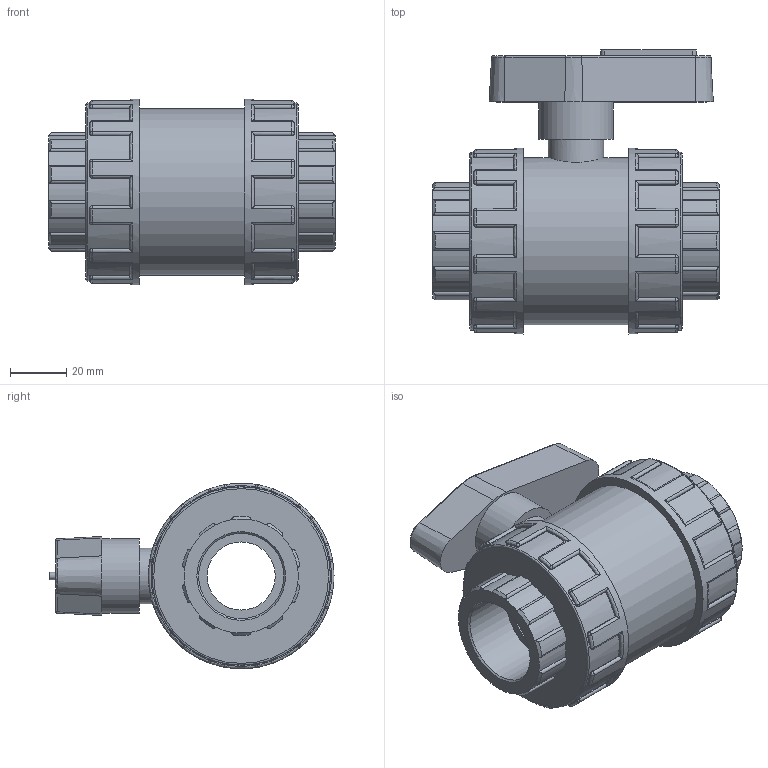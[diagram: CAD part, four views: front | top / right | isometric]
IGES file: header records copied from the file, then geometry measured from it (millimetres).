
Global section: file name: 11151010.ipt; native system: Autodesk Inventor 2015; preprocessor: unknown; author: KIM; date: 20171207.170230; units: millimetre
Bounding box: 102 x 100.98 x 66 mm (x, y, z)
Volume: 241849.1 mm3; surface area: 41387.1 mm2
Topology: 1 solids, 1 shells, 434 faces, 1085 edges, 662 vertices
Faces by surface type: cylinder 189, plane 114, revolution 59, sphere 48, cone 24
Full cylindrical faces by diameter (mm): 19.8 x1, 26.4 x1, 59.4 x1, 63.36 x2, 66 x2
